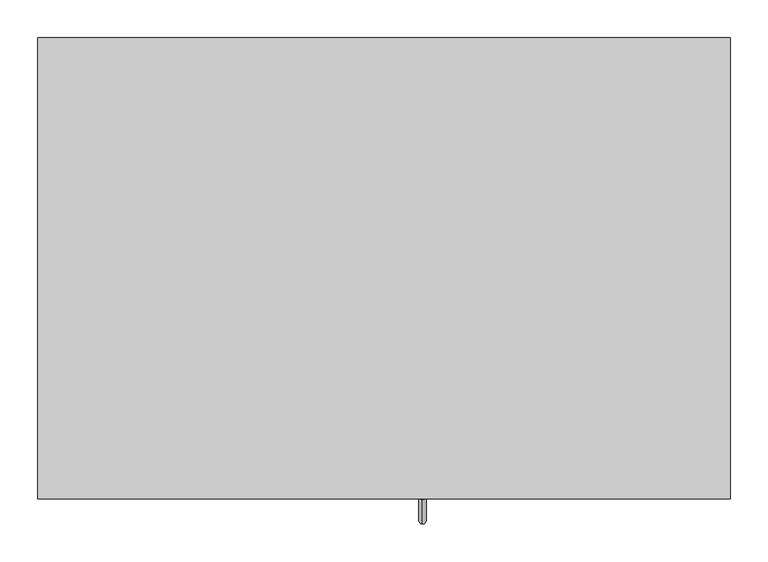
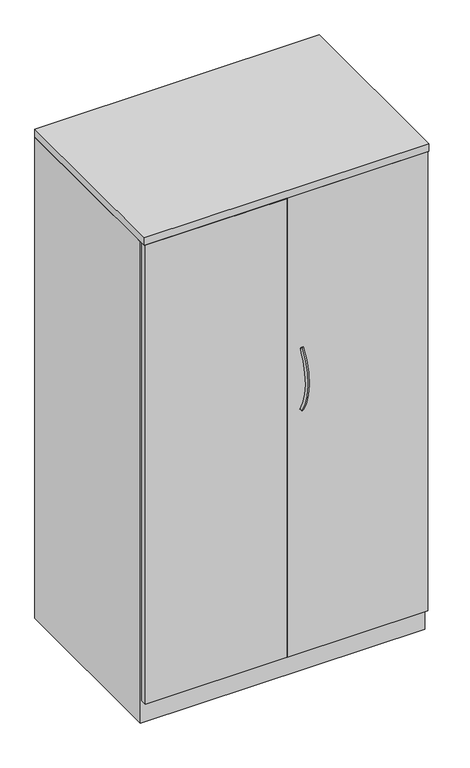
"""IFC4 building model written with IfcOpenShell, lengths in millimetres: furniture geometry, Steelcase - Universal Storage - Cabinet - Wardrobe - 66H-84H - Proud Steel : Partition/4 Adjustable Shelf/Coat Rod - 65 1/2H x 24D x 36W."""

from ifc_helpers import new_model, si_unit, point, frame, origin, place, context, project, spatial, polyline, circle_curve, ellipse_curve, trimmed, outline, extrude, faceted_brep, source, transform, mapped, element, save
from ifc_brep_helpers import plane_surface, revolved_surface, advanced_brep


def furniture_2b4c5a80(model_context):
    return source(origin(), model_context, "Body", "SolidModel", [
        extrude(outline(polyline([(914.4, 130.048), (914.4, -479.552), (0.0, -479.552), (0.0, 130.048), (914.4, 130.048)])), frame((0.0, 0.0, 1638.2999516), z_axis=(0.0, 0.0, 1.0), x_axis=(1.0, 0.0, 0.0)), (0.0, 0.0, 1.0), 25.4),
        advanced_brep(
        [(507.9682496, -480.0678374, 1114.4756859), (507.9682496, -471.5857696, 1108.8828219), (507.9682496, -477.4964738, 894.418042), (507.9682496, -469.1474089, 900.2075769)],
        [
            (0, 1, circle_curve(frame((507.9682496, -475.8268035, 1111.6792539), z_axis=(0.0, 0.5504787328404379, 0.8348491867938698), x_axis=(0.0, 0.8348491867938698, -0.5504787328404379)), 5.08)),
            (1, 0, circle_curve(frame((507.9682496, -475.8268035, 1111.6792539), z_axis=(0.0, 0.5504787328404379, 0.8348491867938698), x_axis=(0.0, 0.8348491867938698, -0.5504787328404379)), 5.08)),
            (2, 3, circle_curve(frame((507.9682496, -473.3219413, 897.3128094), z_axis=(0.0, 0.5698361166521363, -0.8217583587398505), x_axis=(0.0, 0.8217583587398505, 0.5698361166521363)), 5.08)),
            (3, 2, circle_curve(frame((507.9682496, -473.3219413, 897.3128094), z_axis=(0.0, 0.5698361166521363, -0.8217583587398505), x_axis=(0.0, 0.8217583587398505, 0.5698361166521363)), 5.08)),
            (3, 1, circle_curve(frame((507.9682496, -316.0827352, 1006.3479992), z_axis=(-1.0, 0.0, 0.0), x_axis=(0.0, -0.83484918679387, 0.5504787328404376)), 186.2648211)),
            (0, 2, circle_curve(frame((507.9682496, -316.0827352, 1006.3479992), z_axis=(1.0, 0.0, 0.0), x_axis=(0.0, -0.83484918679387, 0.5504787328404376)), 196.4248211)),
        ],
        [
            plane_surface(frame((508.7619996, -475.1785718, 1111.2518261), z_axis=(0.0, 0.5504787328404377, 0.83484918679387), x_axis=(1.0, 0.0, 0.0))),
            plane_surface(frame((508.7619996, -472.6838742, 897.7552676), z_axis=(0.0, 0.5698361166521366, -0.8217583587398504), x_axis=(1.0, 0.0, 0.0))),
            revolved_surface(trimmed(ellipse_curve(frame((507.9682496, -475.8268035, 1111.6792539), z_axis=(0.0, 0.5504787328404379, 0.8348491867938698), x_axis=(0.0, 0.8348491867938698, -0.5504787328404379)), 5.08, 5.08), [point((507.9682496, -480.0678374, 1114.4756859))], [point((507.9682496, -471.5857696, 1108.8828219))], True, "CARTESIAN"), (508.7619996, -316.0827352, 1006.3479992), (1.0, 0.0, 0.0)),
            revolved_surface(trimmed(ellipse_curve(frame((507.9682496, -475.8268035, 1111.6792539), z_axis=(0.0, 0.5504787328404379, 0.8348491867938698), x_axis=(0.0, 0.8348491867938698, -0.5504787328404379)), 5.08, 5.08), [point((507.9682496, -471.5857696, 1108.8828219))], [point((507.9682496, -480.0678374, 1114.4756859))], True, "CARTESIAN"), (508.7619996, -316.0827352, 1006.3479992), (1.0, 0.0, 0.0)),
        ],
        [
            (0, [[1, 2]]),
            (1, [[3, 4]]),
            (2, [[5, -1, 6, -4]]),
            (3, [[-6, -2, -5, -3]]),
        ],
    ),
        extrude(outline(polyline([(457.2, -479.552), (3.1725353, -479.552), (3.1725353, -457.3261219), (457.2, -457.3261219), (457.2, -479.552)])), frame((0.0, 0.0, 77.724), z_axis=(0.0, 0.0, 1.0), x_axis=(1.0, 0.0, 0.0)), (0.0, 0.0, 1.0), 1559.052),
        extrude(outline(polyline([(911.2225413, -479.552), (458.7239992, -479.552), (458.7239992, -457.3261219), (911.2225413, -457.3261219), (911.2225413, -479.552)])), frame((0.0, 0.0, 77.724), z_axis=(0.0, 0.0, 1.0), x_axis=(1.0, 0.0, 0.0)), (0.0, 0.0, 1.0), 1559.052),
        faceted_brep([(25.4000008, -457.3261219, 76.2), (889.0000242, -457.3261219, 76.2), (889.0000242, 104.6479992, 76.2), (25.4000008, 104.6479992, 76.2), (914.4, 130.048, 0.0), (914.4, -457.3261219, 0.0), (0.0, -457.3261219, 0.0), (0.0, 130.048, 0.0), (0.0, 130.048, 1636.776), (914.4, 130.048, 1636.776), (0.0, -457.3261219, 1636.776), (914.4, -457.3261219, 1636.776), (889.0000242, -457.3261219, 1636.776), (25.4000008, -457.3261219, 1636.776), (889.0000242, 104.6479992, 1636.776), (25.4000008, 104.6479992, 1636.776)], [[[0, 1, 2, 3]], [[4, 5, 6, 7]], [[4, 7, 8, 9]], [[8, 7, 6, 10]], [[10, 6, 5, 11, 12, 1, 0, 13]], [[11, 5, 4, 9]], [[14, 12, 11, 9, 8, 10, 13, 15]], [[12, 14, 2, 1]], [[15, 13, 0, 3]], [[14, 15, 3, 2]]]),
    ])


if __name__ == "__main__":
    model = new_model("IFC4")
    model_context = context("Model", 3, world=origin())
    ifc_project = project(units=[si_unit("LENGTHUNIT", "METRE", prefix="MILLI")], contexts=[model_context])
    site = spatial("IfcSite", under=ifc_project)
    building = spatial("IfcBuilding", under=site)
    placement = place(None, origin())
    furniture_shape = furniture_2b4c5a80(model_context)
    element("IfcFurniture", 1, ObjectType="Steelcase - Universal Storage - Cabinet - Wardrobe - 66H-84H - Proud Steel : Partition/4 Adjustable Shelf/Coat Rod - 65 1/2H x 24D x 36W", at=placement, inside=building, context=model_context, shape_type="MappedRepresentation", body=[
        mapped(furniture_shape, transform((0.0, 0.0, 0.0), x_axis=(1.0, 0.0, 0.0), y_axis=(0.0, 1.0, 0.0), z_axis=(0.0, 0.0, 1.0))),
    ])
    save(model, "model.ifc")
